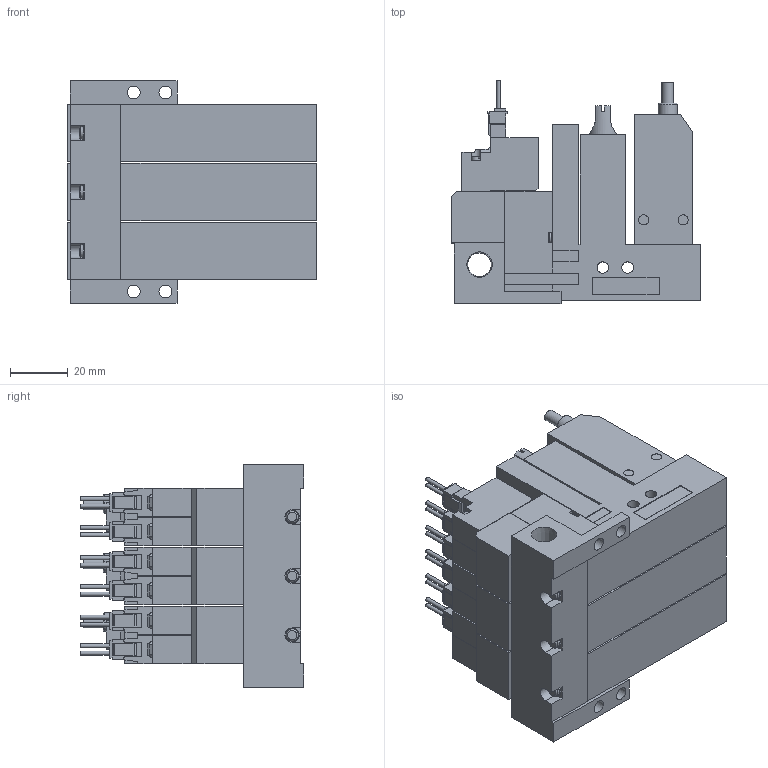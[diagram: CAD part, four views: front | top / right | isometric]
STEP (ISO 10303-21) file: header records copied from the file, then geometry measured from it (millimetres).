
FILE_DESCRIPTION(('STEP AP203'),'1');
FILE_NAME('ABS_ABPL5BLR303.stp','2025-02-18T07:51:20',(' '),(' '),'Spatial InterOp 3D',' ',' ');
FILE_SCHEMA(('CONFIG_CONTROL_DESIGN'));
Length unit declared in the file: millimetre
Products named in the file (5): BMC22M※※※※ABS_ABPL5BLR303; Solenoid valve B; Pressure sensor ABSL; Unit L; Base MR30R
Assembly tree (10 placements, depth 2):
  BMC22M※※※※ABS_ABPL5BLR303
    Solenoid valve B  x3
    Pressure sensor ABSL  x3
    Unit L  x3
    Base MR30R
Bounding box: 86.6 x 77.45 x 77 mm (x, y, z)
Volume: 270139.4 mm3; surface area: 75565.1 mm2
Topology: 10 solids, 10 shells, 1074 faces, 2882 edges, 1903 vertices
Faces by surface type: plane 908, cylinder 131, cone 23, torus 12
Full cylindrical faces by diameter (mm): 1.4 x12, 2.5 x3, 3 x12, 3.5 x18, 3.6 x3, 4 x9, 4.134 x3, 4.5 x4, 5.2 x3, 6 x3, 6.5 x3, 6.6 x3, 8.279 x1
Entity records: 12534 total; most frequent: CARTESIAN_POINT 2334, ORIENTED_EDGE 1992, DIRECTION 1989, EDGE_CURVE 996, LINE 823, VECTOR 823, VERTEX_POINT 693, AXIS2_PLACEMENT_3D 583
